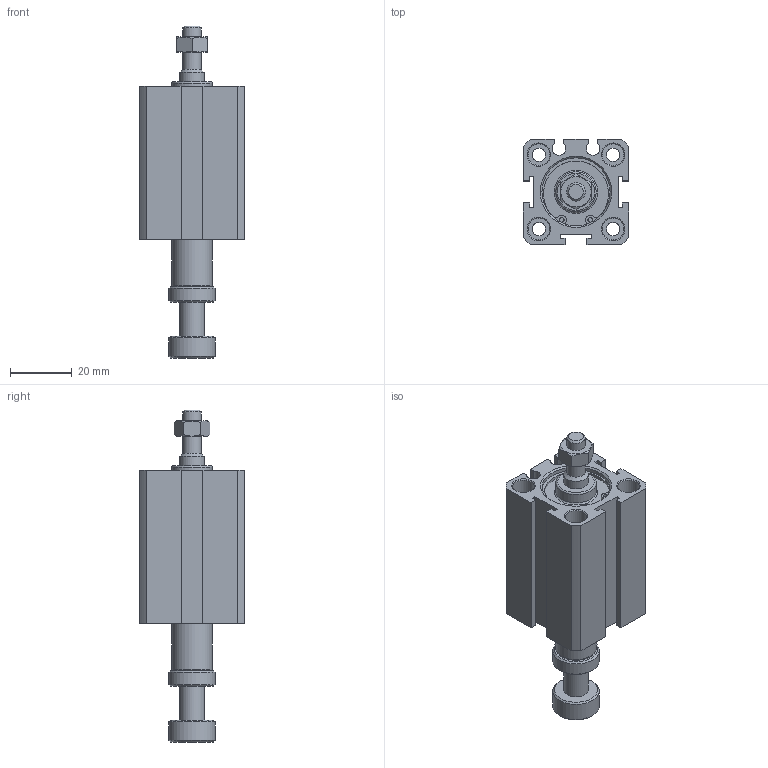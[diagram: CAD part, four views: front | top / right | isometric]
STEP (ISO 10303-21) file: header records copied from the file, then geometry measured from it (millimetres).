
FILE_DESCRIPTION((''),'2;1');
FILE_NAME('I:\3D電子目錄\氣缸\JDAR\JDAR-B\JDAR20-B\JDAR20x30-B.stp','2007-03-14T13:16:21',('662F206'),(''),'Autodesk Inventor 11','Autodesk Inventor 11','');
FILE_SCHEMA(('AUTOMOTIVE_DESIGN { 1 0 10303 214 1 1 1 1 }'));
Length unit declared in the file: millimetre
Products named in the file (3): JDAR20-B; R 形環 23
Assembly tree (3 placements, depth 2):
  JDAR20-B
    JDAR20-B
    R 形環 23  x2
Bounding box: 34 x 34 x 107.3 mm (x, y, z)
Volume: 51259.9 mm3; surface area: 18400.2 mm2
Topology: 3 solids, 3 shells, 152 faces, 341 edges, 221 vertices
Faces by surface type: plane 74, cylinder 50, cone 20, bspline 6, torus 2
Full cylindrical faces by diameter (mm): 1.5 x6, 4.3 x4, 6 x2, 7 x8, 8 x2, 13 x2, 15 x2, 22 x4, 23.2 x2
Entity records: 3749 total; most frequent: CARTESIAN_POINT 742, DIRECTION 628, ORIENTED_EDGE 498, AXIS2_PLACEMENT_3D 251, EDGE_CURVE 249, EDGE_LOOP 234, VERTEX_POINT 195, FACE_OUTER_BOUND 140
